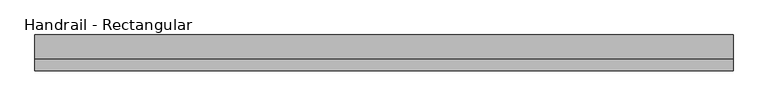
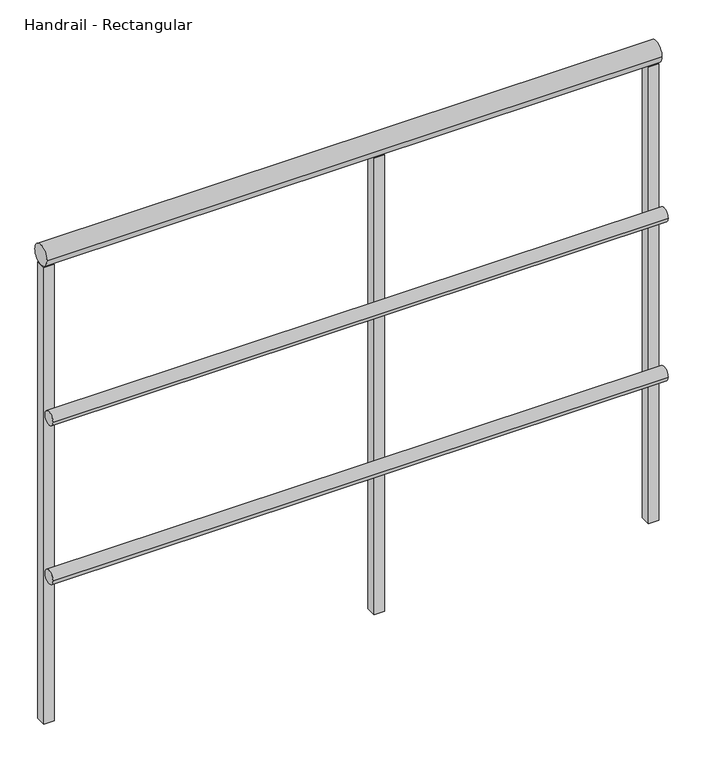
"""IFC4 building model written with IfcOpenShell, lengths in millimetres: railing geometry, Handrail - Rectangular."""

from ifc_helpers import new_model, si_unit, point, frame, frame_2d, origin, place, context, project, spatial, polyline, circle_curve, trimmed, segment, composite_curve, outline, extrude, source, transform, mapped, element, save


def handrail_rectangular_1d374aff(model_context):
    return source(origin(), model_context, "Body", "SweptSolid", [
        extrude(outline(composite_curve([segment(trimmed(circle_curve(frame_2d((4350.2316867, 9740.9)), 12.7), [point((4337.5316867, 9740.9))], [point((4362.9316867, 9740.9))], False, "CARTESIAN"), True, "CONTINUOUS"), segment(trimmed(circle_curve(frame_2d((4350.2316867, 9740.9)), 12.7), [point((4362.9316867, 9740.9))], [point((4337.5316867, 9740.9))], False, "CARTESIAN"), True, "CONTINUOUS")], self_intersect=False)), frame((-31964.2839563, 0.0, 0.0), z_axis=(1.0, 0.0, 0.0), x_axis=(0.0, 1.0, 0.0)), (0.0, 0.0, 1.0), 1117.6),
        extrude(outline(composite_curve([segment(trimmed(circle_curve(frame_2d((4350.2316867, 9436.1)), 12.7), [point((4337.5316867, 9436.1))], [point((4362.9316867, 9436.1))], False, "CARTESIAN"), True, "CONTINUOUS"), segment(trimmed(circle_curve(frame_2d((4350.2316867, 9436.1)), 12.7), [point((4362.9316867, 9436.1))], [point((4337.5316867, 9436.1))], False, "CARTESIAN"), True, "CONTINUOUS")], self_intersect=False)), frame((-31964.2839563, 0.0, 0.0), z_axis=(1.0, 0.0, 0.0), x_axis=(0.0, 1.0, 0.0)), (0.0, 0.0, 1.0), 1117.6),
        extrude(outline(composite_curve([segment(trimmed(circle_curve(frame_2d((4375.6316867, 10039.35)), 19.05), [point((4356.5816867, 10039.35))], [point((4394.6816867, 10039.35))], False, "CARTESIAN"), True, "CONTINUOUS"), segment(trimmed(circle_curve(frame_2d((4375.6316867, 10039.35)), 19.05), [point((4394.6816867, 10039.35))], [point((4356.5816867, 10039.35))], False, "CARTESIAN"), True, "CONTINUOUS")], self_intersect=False)), frame((-31964.2839563, 0.0, 0.0), z_axis=(1.0, 0.0, 0.0), x_axis=(0.0, 1.0, 0.0)), (0.0, 0.0, 1.0), 1117.6),
        extrude(outline(polyline([(-31364.2089563, 4385.1566867), (-31345.1589563, 4385.1566867), (-31345.1589563, 4366.1066867), (-31364.2089563, 4366.1066867), (-31364.2089563, 4385.1566867)])), frame((0.0, 0.0, 9144.0), z_axis=(0.0, 0.0, 1.0), x_axis=(1.0, 0.0, 0.0)), (0.0, 0.0, 1.0), 876.3),
        extrude(outline(polyline([(-30865.7339563, 4385.1566867), (-30846.6839563, 4385.1566867), (-30846.6839563, 4366.1066867), (-30865.7339563, 4366.1066867), (-30865.7339563, 4385.1566867)])), frame((0.0, 0.0, 9144.0), z_axis=(0.0, 0.0, 1.0), x_axis=(1.0, 0.0, 0.0)), (0.0, 0.0, 1.0), 876.3),
        extrude(outline(polyline([(-31964.2839563, 4385.1566867), (-31945.2339563, 4385.1566867), (-31945.2339563, 4366.1066867), (-31964.2839563, 4366.1066867), (-31964.2839563, 4385.1566867)])), frame((0.0, 0.0, 9144.0), z_axis=(0.0, 0.0, 1.0), x_axis=(1.0, 0.0, 0.0)), (0.0, 0.0, 1.0), 876.3),
    ])


if __name__ == "__main__":
    model = new_model("IFC4")
    model_context = context("Model", 3, world=origin())
    ifc_project = project(units=[si_unit("LENGTHUNIT", "METRE", prefix="MILLI")], contexts=[model_context])
    site = spatial("IfcSite", under=ifc_project)
    building = spatial("IfcBuilding", under=site)
    placement = place(None, origin())
    handrail_rectangular_shape = handrail_rectangular_1d374aff(model_context)
    element("IfcRailing", 1, ObjectType="Handrail - Rectangular", at=placement, inside=building, context=model_context, shape_type="MappedRepresentation", body=[
        mapped(handrail_rectangular_shape, transform((0.0, 0.0, 0.0), x_axis=(1.0, 0.0, 0.0), y_axis=(0.0, 1.0, 0.0), z_axis=(0.0, 0.0, 1.0))),
    ])
    save(model, "model.ifc")
